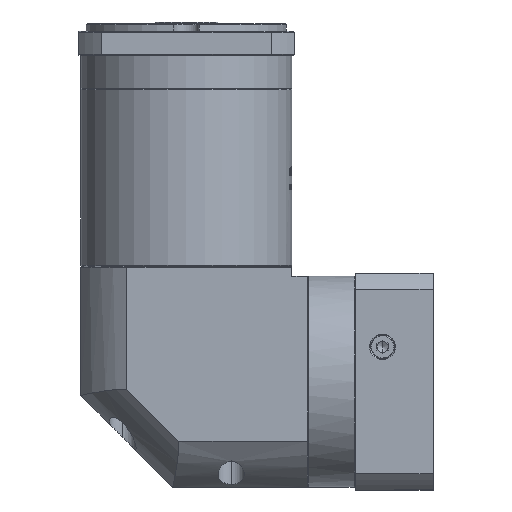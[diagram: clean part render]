
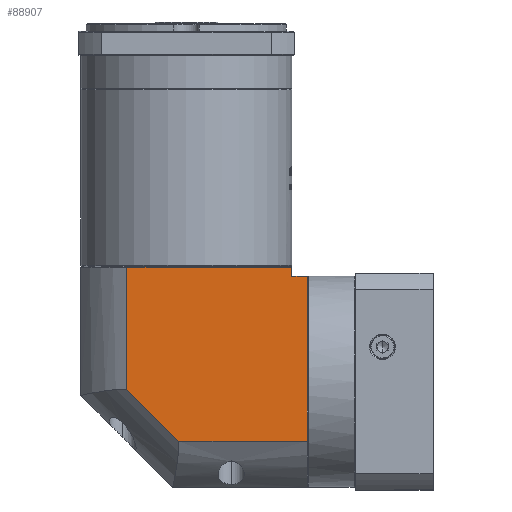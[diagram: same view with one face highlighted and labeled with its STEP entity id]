
A CAD part, left-side view. The second image highlights one B-rep face of the part: STEP entity #88907.
In plain terms, the highlighted planar face has unit normal (-1, 0, 0).
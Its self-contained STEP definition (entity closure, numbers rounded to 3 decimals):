
#360 = DIRECTION ( 'NONE',  ( 0., 1., 0. ) ) ;
#3679 = VERTEX_POINT ( 'NONE', #20412 ) ;
#10385 = VERTEX_POINT ( 'NONE', #48390 ) ;
#11347 = EDGE_CURVE ( 'NONE', #163954, #10385, #161969, .T. ) ;
#19748 = EDGE_CURVE ( 'NONE', #21320, #55174, #39076, .T. ) ;
#19869 = ORIENTED_EDGE ( 'NONE', *, *, #90942, .F. ) ;
#20412 = CARTESIAN_POINT ( 'NONE',  ( -280.909, -94.715, 67.37 ) ) ;
#21320 = VERTEX_POINT ( 'NONE', #100353 ) ;
#29577 = LINE ( 'NONE', #127188, #85102 ) ;
#32655 = CARTESIAN_POINT ( 'NONE',  ( -280.909, 28.685, 72.37 ) ) ;
#33401 = DIRECTION ( 'NONE',  ( 0., 0., 1. ) ) ;
#37153 = CARTESIAN_POINT ( 'NONE',  ( -280.909, -86.315, 67.37 ) ) ;
#38556 = LINE ( 'NONE', #159517, #66481 ) ;
#38603 = ORIENTED_EDGE ( 'NONE', *, *, #128719, .F. ) ;
#39076 = LINE ( 'NONE', #151463, #90575 ) ;
#48390 = CARTESIAN_POINT ( 'NONE',  ( -280.909, 3.585, 72.37 ) ) ;
#51997 = DIRECTION ( 'NONE',  ( 0., 0.707, 0.707 ) ) ;
#55174 = VERTEX_POINT ( 'NONE', #78529 ) ;
#56814 = EDGE_CURVE ( 'NONE', #3679, #71924, #38556, .T. ) ;
#60353 = VERTEX_POINT ( 'NONE', #164252 ) ;
#61820 = CARTESIAN_POINT ( 'NONE',  ( -280.909, 28.685, 78.87 ) ) ;
#66481 = VECTOR ( 'NONE', #83755, 1000. ) ;
#68451 = EDGE_LOOP ( 'NONE', ( #120117, #135831, #38603, #97709, #74108, #121864, #19869 ) ) ;
#69430 = FACE_OUTER_BOUND ( 'NONE', #68451, .T. ) ;
#71924 = VERTEX_POINT ( 'NONE', #90531 ) ;
#74108 = ORIENTED_EDGE ( 'NONE', *, *, #79739, .T. ) ;
#74114 = DIRECTION ( 'NONE',  ( 0., 0., 1. ) ) ;
#74540 = DIRECTION ( 'NONE',  ( 0., 1., 0. ) ) ;
#78529 = CARTESIAN_POINT ( 'NONE',  ( -280.909, -86.315, 72.37 ) ) ;
#79739 = EDGE_CURVE ( 'NONE', #3679, #21320, #131206, .T. ) ;
#83755 = DIRECTION ( 'NONE',  ( 0., 0., -1. ) ) ;
#84751 = DIRECTION ( 'NONE',  ( 0., -1., 0. ) ) ;
#85102 = VECTOR ( 'NONE', #360, 1000. ) ;
#88539 = CARTESIAN_POINT ( 'NONE',  ( -280.909, -24.753, -22.529 ) ) ;
#88907 = ADVANCED_FACE ( 'NONE', ( #69430 ), #150240, .F. ) ;
#90531 = CARTESIAN_POINT ( 'NONE',  ( -280.909, -94.715, -22.529 ) ) ;
#90575 = VECTOR ( 'NONE', #74114, 1000. ) ;
#90942 = EDGE_CURVE ( 'NONE', #10385, #55174, #159109, .T. ) ;
#97709 = ORIENTED_EDGE ( 'NONE', *, *, #56814, .F. ) ;
#99724 = VECTOR ( 'NONE', #84751, 1000. ) ;
#99735 = CARTESIAN_POINT ( 'NONE',  ( -280.909, 3.585, 5.809 ) ) ;
#100285 = VECTOR ( 'NONE', #51997, 1000. ) ;
#100353 = CARTESIAN_POINT ( 'NONE',  ( -280.909, -86.315, 67.37 ) ) ;
#120117 = ORIENTED_EDGE ( 'NONE', *, *, #11347, .F. ) ;
#121864 = ORIENTED_EDGE ( 'NONE', *, *, #19748, .T. ) ;
#127188 = CARTESIAN_POINT ( 'NONE',  ( -280.909, 28.685, -22.529 ) ) ;
#128323 = VECTOR ( 'NONE', #33401, 1000. ) ;
#128719 = EDGE_CURVE ( 'NONE', #71924, #60353, #29577, .T. ) ;
#131206 = LINE ( 'NONE', #37153, #152988 ) ;
#135831 = ORIENTED_EDGE ( 'NONE', *, *, #155284, .F. ) ;
#150240 = PLANE ( 'NONE',  #159304 ) ;
#151463 = CARTESIAN_POINT ( 'NONE',  ( -280.909, -86.315, -47.63 ) ) ;
#152988 = VECTOR ( 'NONE', #163302, 1000. ) ;
#155284 = EDGE_CURVE ( 'NONE', #60353, #163954, #163591, .T. ) ;
#159109 = LINE ( 'NONE', #32655, #99724 ) ;
#159304 = AXIS2_PLACEMENT_3D ( 'NONE', #61820, #161297, #74540 ) ;
#159517 = CARTESIAN_POINT ( 'NONE',  ( -280.909, -94.715, 78.87 ) ) ;
#160633 = CARTESIAN_POINT ( 'NONE',  ( -280.909, 3.585, 78.87 ) ) ;
#161297 = DIRECTION ( 'NONE',  ( 1., 0., 0. ) ) ;
#161969 = LINE ( 'NONE', #160633, #128323 ) ;
#163302 = DIRECTION ( 'NONE',  ( 0., 1., 0. ) ) ;
#163591 = LINE ( 'NONE', #88539, #100285 ) ;
#163954 = VERTEX_POINT ( 'NONE', #99735 ) ;
#164252 = CARTESIAN_POINT ( 'NONE',  ( -280.909, -24.753, -22.529 ) ) ;
